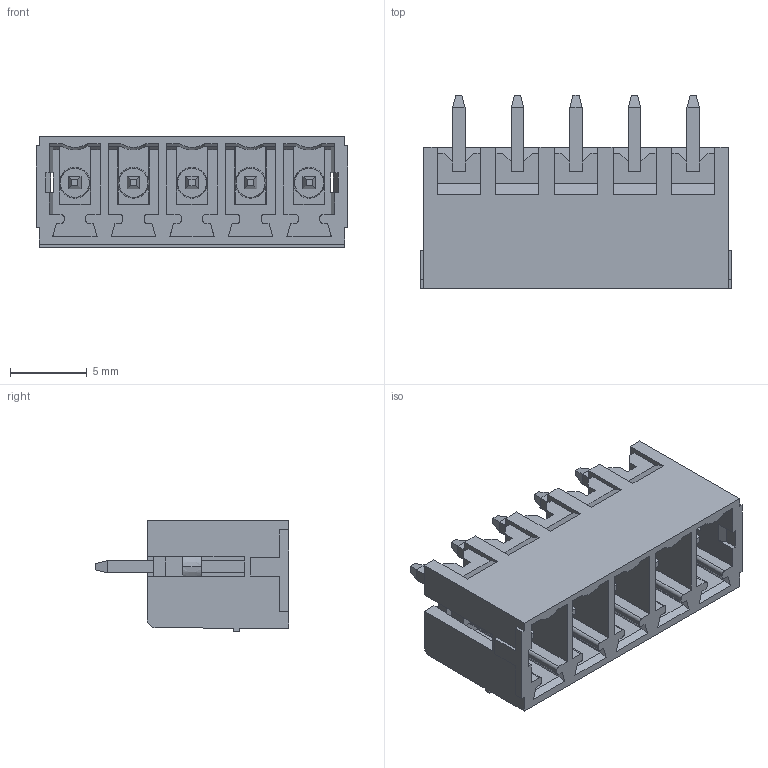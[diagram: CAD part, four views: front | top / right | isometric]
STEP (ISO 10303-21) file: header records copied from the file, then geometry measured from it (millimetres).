
FILE_DESCRIPTION(('FreeCAD Model'),'2;1');
FILE_NAME('Open CASCADE Shape Model','2023-05-24T15:52:32',('Author'),( ''),'Open CASCADE STEP processor 7.6','FreeCAD','Unknown');
FILE_SCHEMA(('AUTOMOTIVE_DESIGN { 1 0 10303 214 1 1 1 1 }'));
Length unit declared in the file: millimetre
Products named in the file (1): BR7MC2-05
Bounding box: 20.24 x 12.6 x 7.2 mm (x, y, z)
Volume: 608.9 mm3; surface area: 1858.5 mm2
Topology: 1 solids, 1 shells, 442 faces, 1193 edges, 759 vertices
Faces by surface type: plane 391, cylinder 26, cone 15, sphere 10
Entity records: 29558 total; most frequent: CARTESIAN_POINT 5605, DIRECTION 4458, LINE 3325, VECTOR 3325, ORIENTED_EDGE 2366, PCURVE 2366, DEFINITIONAL_REPRESENTATION 2366, EDGE_CURVE 1183
